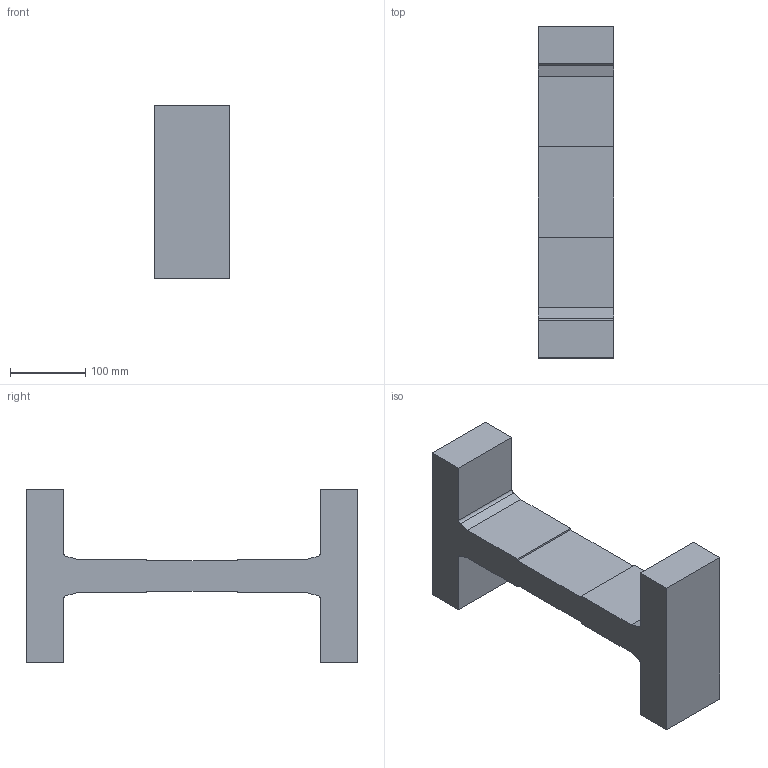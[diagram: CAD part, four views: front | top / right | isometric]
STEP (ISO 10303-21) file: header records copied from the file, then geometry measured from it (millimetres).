
FILE_DESCRIPTION((''),'2;1');
FILE_NAME('K:\Daten\KOMPONENTEN 2D + 3D\CADENAS Download-Komponenten----CAD-Files neue Version\3D\MP ---.08--\ALFATEC_MP_340_0852__100mm_.stp','2013-09-26T09:01:30',('hipp'),(''),'Autodesk Inventor 2013','Autodesk Inventor 2013','');
FILE_SCHEMA(('AUTOMOTIVE_DESIGN { 1 0 10303 214 1 1 1 1 }'));
Length unit declared in the file: millimetre
Products named in the file (1): ALFATEC MP 340.0852 (100mm)
Bounding box: 100 x 440 x 230 mm (x, y, z)
Volume: 3776433.6 mm3; surface area: 245612.5 mm2
Topology: 1 solids, 1 shells, 30 faces, 84 edges, 56 vertices
Faces by surface type: plane 26, cylinder 4
Entity records: 982 total; most frequent: CARTESIAN_POINT 171, ORIENTED_EDGE 168, DIRECTION 154, EDGE_CURVE 84, VECTOR 76, LINE 76, VERTEX_POINT 56, AXIS2_PLACEMENT_3D 39
